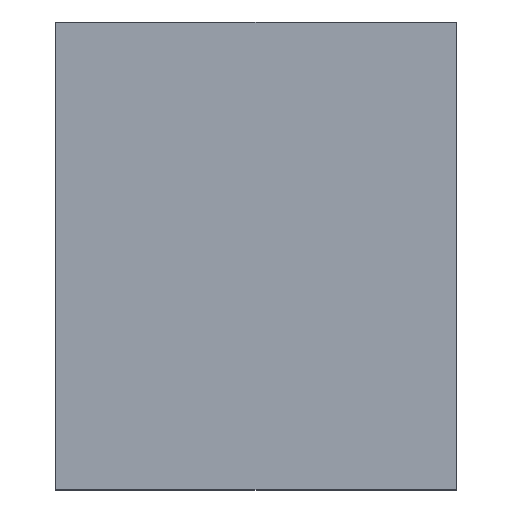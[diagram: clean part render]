
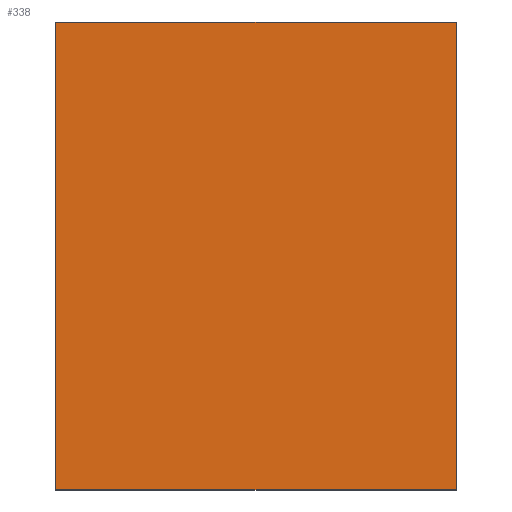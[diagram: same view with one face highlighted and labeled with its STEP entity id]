
A CAD part, top view. The second image highlights one B-rep face of the part: STEP entity #338.
In plain terms, the highlighted planar face has unit normal (0, 0, 1).
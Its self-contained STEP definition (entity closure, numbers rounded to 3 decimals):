
#24 = VERTEX_POINT('',#25);
#25 = CARTESIAN_POINT('',(-6.7,4.65,-9.5));
#32 = PLANE('',#33);
#33 = AXIS2_PLACEMENT_3D('',#34,#35,#36);
#34 = CARTESIAN_POINT('',(-6.7,4.65,-9.72));
#35 = DIRECTION('',(1.,0.,-0.));
#36 = DIRECTION('',(0.,0.,1.));
#44 = PLANE('',#45);
#45 = AXIS2_PLACEMENT_3D('',#46,#47,#48);
#46 = CARTESIAN_POINT('',(-6.7,4.65,-9.72));
#47 = DIRECTION('',(-0.,1.,0.));
#48 = DIRECTION('',(0.,0.,1.));
#85 = VERTEX_POINT('',#86);
#86 = CARTESIAN_POINT('',(-6.7,5.35,-9.5));
#100 = PLANE('',#101);
#101 = AXIS2_PLACEMENT_3D('',#102,#103,#104);
#102 = CARTESIAN_POINT('',(-6.7,5.35,-9.72));
#103 = DIRECTION('',(-0.,1.,0.));
#104 = DIRECTION('',(0.,0.,1.));
#112 = EDGE_CURVE('',#24,#85,#113,.T.);
#113 = SURFACE_CURVE('',#114,(#118,#125),.PCURVE_S1.);
#114 = LINE('',#115,#116);
#115 = CARTESIAN_POINT('',(-6.7,4.65,-9.5));
#116 = VECTOR('',#117,1.);
#117 = DIRECTION('',(-0.,1.,0.));
#118 = PCURVE('',#32,#119);
#119 = DEFINITIONAL_REPRESENTATION('',(#120),#124);
#120 = LINE('',#121,#122);
#121 = CARTESIAN_POINT('',(0.22,0.));
#122 = VECTOR('',#123,1.);
#123 = DIRECTION('',(0.,-1.));
#124 = ( GEOMETRIC_REPRESENTATION_CONTEXT(2) 
PARAMETRIC_REPRESENTATION_CONTEXT() REPRESENTATION_CONTEXT('2D SPACE',''
  ) );
#125 = PCURVE('',#126,#131);
#126 = PLANE('',#127);
#127 = AXIS2_PLACEMENT_3D('',#128,#129,#130);
#128 = CARTESIAN_POINT('',(-6.7,4.65,-9.5));
#129 = DIRECTION('',(0.,0.,1.));
#130 = DIRECTION('',(1.,0.,-0.));
#131 = DEFINITIONAL_REPRESENTATION('',(#132),#136);
#132 = LINE('',#133,#134);
#133 = CARTESIAN_POINT('',(0.,0.));
#134 = VECTOR('',#135,1.);
#135 = DIRECTION('',(0.,1.));
#136 = ( GEOMETRIC_REPRESENTATION_CONTEXT(2) 
PARAMETRIC_REPRESENTATION_CONTEXT() REPRESENTATION_CONTEXT('2D SPACE',''
  ) );
#144 = VERTEX_POINT('',#145);
#145 = CARTESIAN_POINT('',(-6.1,4.65,-9.5));
#152 = PLANE('',#153);
#153 = AXIS2_PLACEMENT_3D('',#154,#155,#156);
#154 = CARTESIAN_POINT('',(-6.1,4.65,-9.72));
#155 = DIRECTION('',(1.,0.,-0.));
#156 = DIRECTION('',(0.,0.,1.));
#195 = VERTEX_POINT('',#196);
#196 = CARTESIAN_POINT('',(-6.1,5.35,-9.5));
#217 = EDGE_CURVE('',#144,#195,#218,.T.);
#218 = SURFACE_CURVE('',#219,(#223,#230),.PCURVE_S1.);
#219 = LINE('',#220,#221);
#220 = CARTESIAN_POINT('',(-6.1,4.65,-9.5));
#221 = VECTOR('',#222,1.);
#222 = DIRECTION('',(-0.,1.,0.));
#223 = PCURVE('',#152,#224);
#224 = DEFINITIONAL_REPRESENTATION('',(#225),#229);
#225 = LINE('',#226,#227);
#226 = CARTESIAN_POINT('',(0.22,0.));
#227 = VECTOR('',#228,1.);
#228 = DIRECTION('',(0.,-1.));
#229 = ( GEOMETRIC_REPRESENTATION_CONTEXT(2) 
PARAMETRIC_REPRESENTATION_CONTEXT() REPRESENTATION_CONTEXT('2D SPACE',''
  ) );
#230 = PCURVE('',#126,#231);
#231 = DEFINITIONAL_REPRESENTATION('',(#232),#236);
#232 = LINE('',#233,#234);
#233 = CARTESIAN_POINT('',(0.6,0.));
#234 = VECTOR('',#235,1.);
#235 = DIRECTION('',(0.,1.));
#236 = ( GEOMETRIC_REPRESENTATION_CONTEXT(2) 
PARAMETRIC_REPRESENTATION_CONTEXT() REPRESENTATION_CONTEXT('2D SPACE',''
  ) );
#263 = EDGE_CURVE('',#24,#144,#264,.T.);
#264 = SURFACE_CURVE('',#265,(#269,#276),.PCURVE_S1.);
#265 = LINE('',#266,#267);
#266 = CARTESIAN_POINT('',(-6.7,4.65,-9.5));
#267 = VECTOR('',#268,1.);
#268 = DIRECTION('',(1.,0.,-0.));
#269 = PCURVE('',#44,#270);
#270 = DEFINITIONAL_REPRESENTATION('',(#271),#275);
#271 = LINE('',#272,#273);
#272 = CARTESIAN_POINT('',(0.22,0.));
#273 = VECTOR('',#274,1.);
#274 = DIRECTION('',(0.,1.));
#275 = ( GEOMETRIC_REPRESENTATION_CONTEXT(2) 
PARAMETRIC_REPRESENTATION_CONTEXT() REPRESENTATION_CONTEXT('2D SPACE',''
  ) );
#276 = PCURVE('',#126,#277);
#277 = DEFINITIONAL_REPRESENTATION('',(#278),#282);
#278 = LINE('',#279,#280);
#279 = CARTESIAN_POINT('',(0.,0.));
#280 = VECTOR('',#281,1.);
#281 = DIRECTION('',(1.,0.));
#282 = ( GEOMETRIC_REPRESENTATION_CONTEXT(2) 
PARAMETRIC_REPRESENTATION_CONTEXT() REPRESENTATION_CONTEXT('2D SPACE',''
  ) );
#310 = EDGE_CURVE('',#85,#195,#311,.T.);
#311 = SURFACE_CURVE('',#312,(#316,#323),.PCURVE_S1.);
#312 = LINE('',#313,#314);
#313 = CARTESIAN_POINT('',(-6.7,5.35,-9.5));
#314 = VECTOR('',#315,1.);
#315 = DIRECTION('',(1.,0.,-0.));
#316 = PCURVE('',#100,#317);
#317 = DEFINITIONAL_REPRESENTATION('',(#318),#322);
#318 = LINE('',#319,#320);
#319 = CARTESIAN_POINT('',(0.22,0.));
#320 = VECTOR('',#321,1.);
#321 = DIRECTION('',(0.,1.));
#322 = ( GEOMETRIC_REPRESENTATION_CONTEXT(2) 
PARAMETRIC_REPRESENTATION_CONTEXT() REPRESENTATION_CONTEXT('2D SPACE',''
  ) );
#323 = PCURVE('',#126,#324);
#324 = DEFINITIONAL_REPRESENTATION('',(#325),#329);
#325 = LINE('',#326,#327);
#326 = CARTESIAN_POINT('',(0.,0.7));
#327 = VECTOR('',#328,1.);
#328 = DIRECTION('',(1.,0.));
#329 = ( GEOMETRIC_REPRESENTATION_CONTEXT(2) 
PARAMETRIC_REPRESENTATION_CONTEXT() REPRESENTATION_CONTEXT('2D SPACE',''
  ) );
#338 = ADVANCED_FACE('',(#339),#126,.T.);
#339 = FACE_BOUND('',#340,.T.);
#340 = EDGE_LOOP('',(#341,#342,#343,#344));
#341 = ORIENTED_EDGE('',*,*,#112,.F.);
#342 = ORIENTED_EDGE('',*,*,#263,.T.);
#343 = ORIENTED_EDGE('',*,*,#217,.T.);
#344 = ORIENTED_EDGE('',*,*,#310,.F.);
